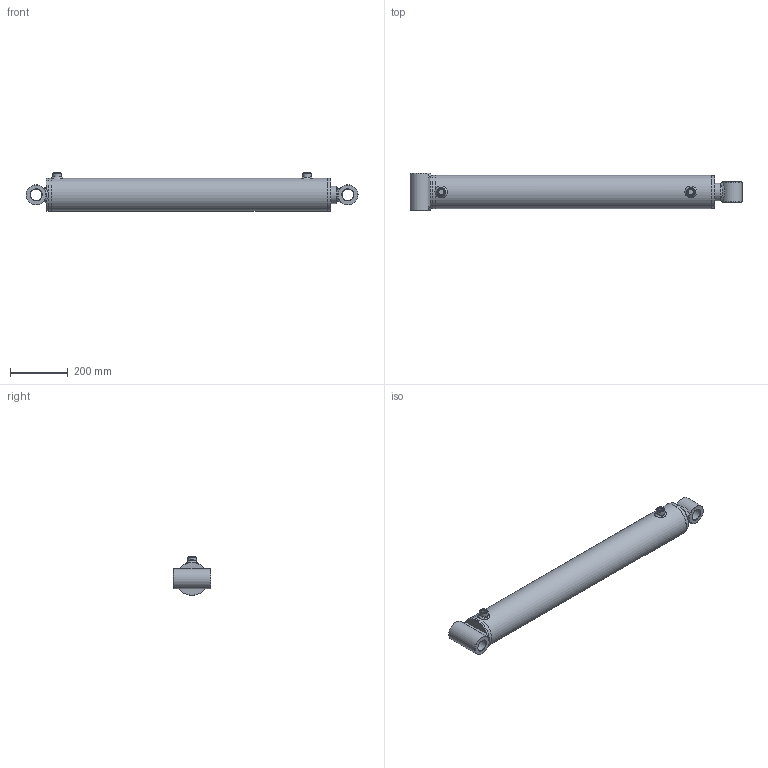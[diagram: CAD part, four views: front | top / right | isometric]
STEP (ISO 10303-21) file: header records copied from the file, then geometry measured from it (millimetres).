
FILE_DESCRIPTION( ( 'Unknown' ), '1' );
FILE_NAME( 'E:/LIBRERIA_3d/CILINDRI/HM2/HM26600800.stp', 'Unknown', ( 'Unknown' ), ( 'Unknown' ), 'PSStep 17.0.49', 'Unknown', ' ' );
FILE_SCHEMA( ( 'AUTOMOTIVE_DESIGN { 1 0 10303 214 1 1 1 1 }' ) );
Length unit declared in the file: millimetre
Products named in the file (27): CT00100033; CG11510060; STL6700800-oa6; Saldatura d'angolo 1-oa4; CBS0800000; FTM6700800-oa5; HM06600800; CF00100115; Saldatura con preparazione 1-oa2; Saldatura d'angolo 1-oa3; CDA0003320; APG0800000; SBL6060800; Assem1; CB40070070; CB40070130; Saldatura d'angolo 1-oa0; Saldatura d'angolo 2-oa1
Assembly tree (18 placements, depth 4):
  Saldatura d'angolo 1-oa4
  Saldatura d'angolo 1-oa4
  Saldatura d'angolo 1-oa3
  Saldatura d'angolo 1-oa3
  Assem1
    CB40070070
    CB40070130
    HM06600800
      CF00100115
      Saldatura con preparazione 1-oa2
      Saldatura con preparazione 1-oa2
      CBS0800000
      CDA0003320
      APG0800000  x2
      SBL6060800
      CT00100033
        CT00100033
      CG11510060
        CG11510060
      STL6700800-oa6
        CBS0800000
        FTM6700800-oa5
Bounding box: 1150 x 130 x 135 mm (x, y, z)
Volume: 6566809.3 mm3; surface area: 1132354 mm2
Topology: 24 solids, 24 shells, 328 faces, 678 edges, 381 vertices
Faces by surface type: bspline 118, plane 72, cylinder 62, cone 40, torus 36
Full cylindrical faces by diameter (mm): 4.25 x1, 8 x2, 12 x1, 18.631 x2, 19.5 x2, 20.95 x2, 26 x2, 30 x2, 32.4 x1, 33 x5, 39.2 x1, 40.25 x2, 50 x1, 60 x5, 63 x3, 68.6 x1, 70 x2, 72 x1, 75 x1, 91.5 x1, 93.14 x2, 98.05 x2, 99.9 x1, 100 x1, 100.3 x1, 100.5 x1, 100.6 x1, 101 x1, 102 x3, 102.835 x1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
Entity records: 17778 total; most frequent: CARTESIAN_POINT 10036, ORIENTED_EDGE 908, DIRECTION 834, EDGE_LOOP 489, EDGE_CURVE 454, FACE_OUTER_BOUND 410, AXIS2_PLACEMENT_3D 404, VERTEX_POINT 330
